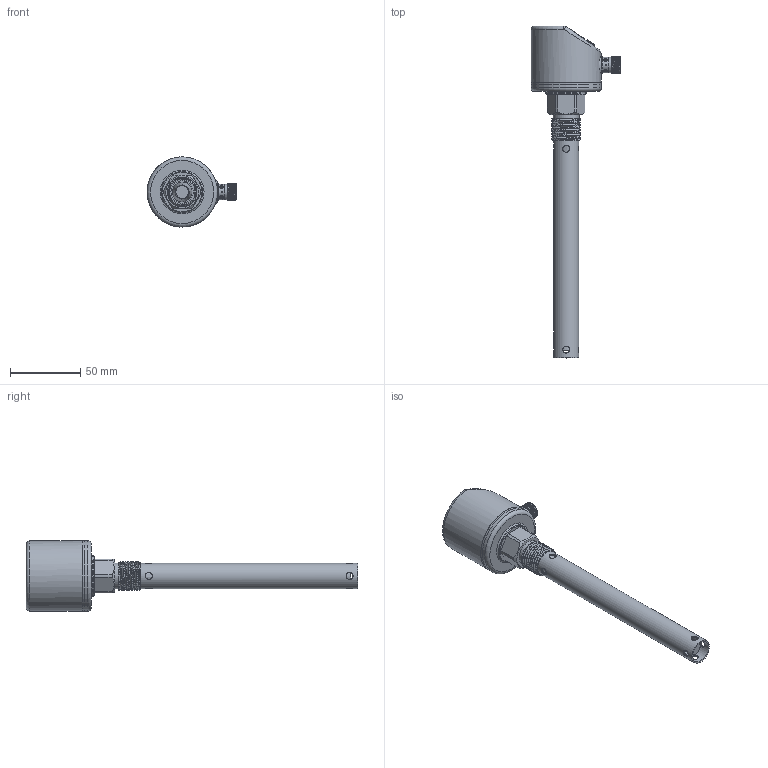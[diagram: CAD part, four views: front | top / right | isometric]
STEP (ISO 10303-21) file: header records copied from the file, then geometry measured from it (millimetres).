
FILE_DESCRIPTION (( 'STEP AP214' ), '1' );
FILE_NAME ('1-2数显电容-150（同轴）.STEP', '2025-03-11T05:44:58', ( '' ), ( '' ), 'SwSTEP 2.0', 'SolidWorks 2020', '' );
FILE_SCHEMA (( 'AUTOMOTIVE_DESIGN' ));
Length unit declared in the file: millimetre
Products named in the file (9): PVC躇猾菜; 抻芛ㄗ蟀哿講ㄘ; 揤薯奻裔; 揤薯珆尨欶; 1-2数显电容-150（同轴）; 肮粣奪; 恦謫抻芛5; 偌瑩簽; 滅阨諉芛褲极1
Assembly tree (10 placements, depth 2):
  1-2数显电容-150（同轴）
    揤薯奻裔
    揤薯珆尨欶
    滅阨諉芛褲极1
    偌瑩簽  x3
    PVC躇猾菜
    恦謫抻芛5
    抻芛ㄗ蟀哿講ㄘ
    肮粣奪
Bounding box: 64 x 236.5 x 50 mm (x, y, z)
Volume: 46289.4 mm3; surface area: 53260 mm2
Topology: 10 solids, 10 shells, 306 faces, 720 edges, 466 vertices
Faces by surface type: plane 126, cylinder 115, cone 39, bspline 11, torus 11, sphere 4
Full cylindrical faces by diameter (mm): 1 x4, 1.2 x3, 1.8 x1, 2 x3, 2.5 x4, 2.8 x1, 4.3 x3, 4.5 x6, 5 x8, 6 x1, 7.2 x1, 8 x1, 8.5 x1, 9.75 x1, 10 x1, 10.49 x1, 10.5 x1, 10.8 x1, 10.9 x1, 11 x2, 12 x1, 16 x1, 18 x1, 18.5 x1, 21 x1, 29.24 x1, 35 x1, 43.9 x1, 45.4 x1, 45.6 x2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
Entity records: 13745 total; most frequent: CARTESIAN_POINT 7166, DIRECTION 1284, ORIENTED_EDGE 1072, EDGE_CURVE 536, AXIS2_PLACEMENT_3D 523, EDGE_LOOP 458, VERTEX_POINT 398, FACE_OUTER_BOUND 344
